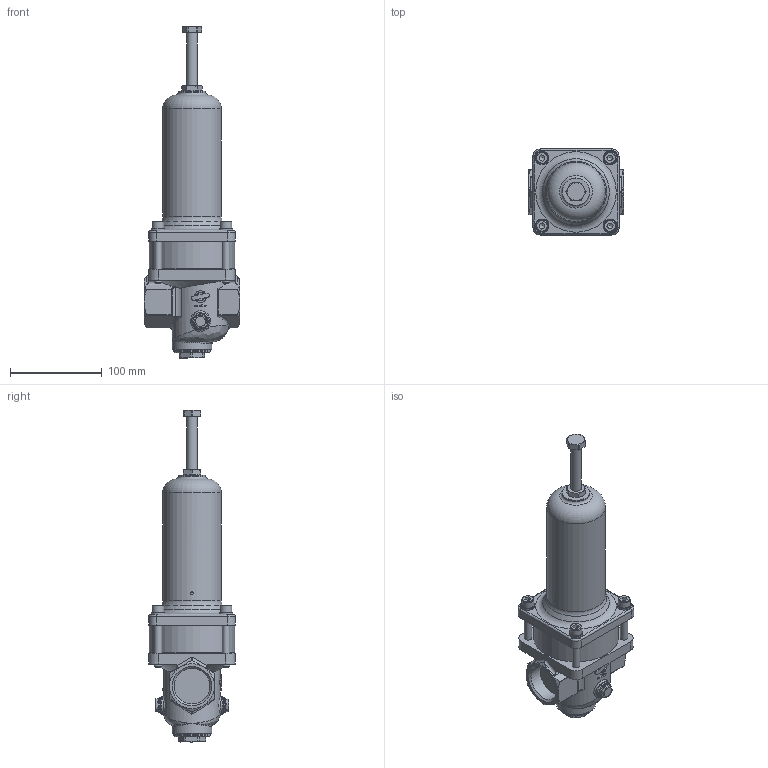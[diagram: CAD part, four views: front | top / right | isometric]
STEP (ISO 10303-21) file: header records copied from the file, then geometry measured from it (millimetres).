
FILE_DESCRIPTION(/* description */ (''),/* implementation_level */ '2;1');
FILE_NAME(/* name */ 'U:/AirCom-Produktdokumentation/Druckregler/RWI/Zeichnungen/CAD-Aircom/3D/RWI-10H.step',/* time_stamp */ '2022-07-01T12:23:06+02:00',/* author */ (''),/* organization */ (''),/* preprocessor_version */ 'ST-DEVELOPER v19',/* originating_system */ 'Autodesk Translation Framework v11.7.0.108',/* authorisation */ '');
FILE_SCHEMA (('AUTOMOTIVE_DESIGN { 1 0 10303 214 3 1 1 }'));
Length unit declared in the file: millimetre
Products named in the file (1): 002205_step
Bounding box: 104 x 94 x 362.5 mm (x, y, z)
Volume: 1204477 mm3; surface area: 106979.4 mm2
Topology: 1 solids, 1 shells, 416 faces, 1090 edges, 691 vertices
Faces by surface type: plane 137, cylinder 110, bspline 88, cone 60, torus 15, sphere 6
Full cylindrical faces by diameter (mm): 3 x1, 8 x8, 8.5 x4, 12 x1, 13 x4, 14 x1, 16.5 x2, 19 x2, 30 x1, 39 x2, 40 x1, 43.5 x1, 64 x1, 87 x1, 87.5 x1, 93 x1
Entity records: 19904 total; most frequent: CARTESIAN_POINT 10375, ORIENTED_EDGE 2148, DIRECTION 1787, EDGE_CURVE 1074, AXIS2_PLACEMENT_3D 729, VERTEX_POINT 691, EDGE_LOOP 469, FACE_OUTER_BOUND 416
